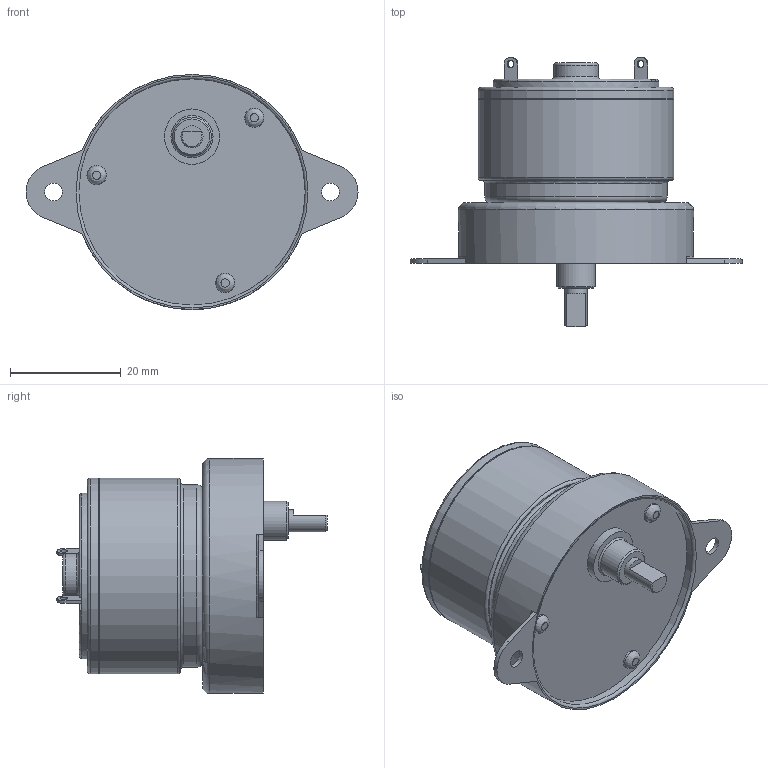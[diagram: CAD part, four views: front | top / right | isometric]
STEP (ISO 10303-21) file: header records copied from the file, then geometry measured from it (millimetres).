
FILE_DESCRIPTION((''),'2;1');
FILE_NAME('\\Servert1600\threepeace\技術関係\home_page_date\選定HP_Data\HP-Data_GM_3D_STEP\TP-3522A-HA.stp','2016-01-16T17:04:05',('kouguchi'),(''),'Autodesk Inventor 2010','Autodesk Inventor 2010','');
FILE_SCHEMA(('AUTOMOTIVE_DESIGN { 1 0 10303 214 1 1 1 1 }'));
Length unit declared in the file: millimetre
Products named in the file (3): Assembly1; HA; TP-3522A
Assembly tree (2 placements, depth 2):
  Assembly1
    HA
    TP-3522A
Bounding box: 60 x 48.8 x 42.5 mm (x, y, z)
Volume: 34882.5 mm3; surface area: 9737.1 mm2
Topology: 2 solids, 2 shells, 109 faces, 240 edges, 155 vertices
Faces by surface type: plane 51, cylinder 24, bspline 23, torus 9, cone 2
Full cylindrical faces by diameter (mm): 1.3 x1, 2 x1, 2.4 x2, 3 x1, 3.2 x1, 3.5 x3, 4 x1, 5 x1, 7 x1, 8 x1, 10 x2, 30 x1, 33 x1, 35 x1, 35.4 x2, 40.9 x1, 42.5 x1
Entity records: 3268 total; most frequent: CARTESIAN_POINT 982, DIRECTION 452, ORIENTED_EDGE 374, EDGE_CURVE 187, AXIS2_PLACEMENT_3D 184, EDGE_LOOP 179, VERTEX_POINT 144, FACE_OUTER_BOUND 109
